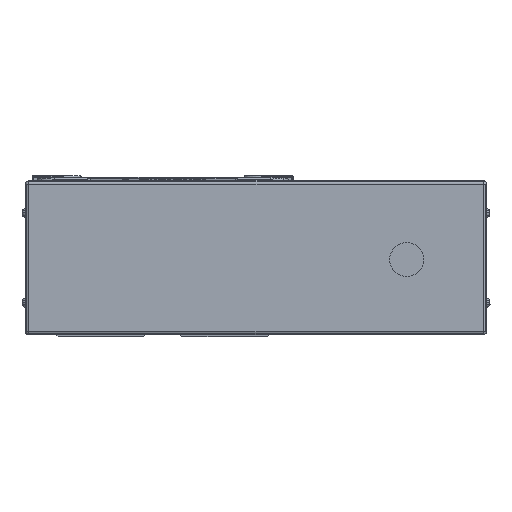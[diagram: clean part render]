
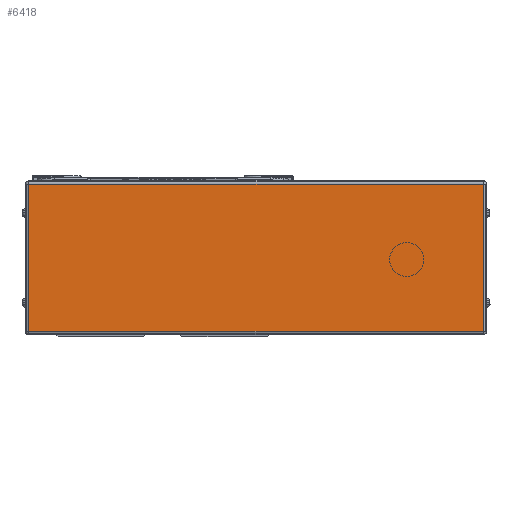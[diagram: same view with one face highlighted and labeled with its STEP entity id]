
A CAD part, left-side view. The second image highlights one B-rep face of the part: STEP entity #6418.
In plain terms, the highlighted planar face has unit normal (-1, 0, 0).
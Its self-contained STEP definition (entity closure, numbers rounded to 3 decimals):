
#6418=ADVANCED_FACE('',(#13460),#13461,.T.);
#13460=FACE_OUTER_BOUND('',#22399,.T.);
#13461=PLANE('',#22400);
#22399=EDGE_LOOP('',(#40735,#40736,#40737,#40738));
#22400=AXIS2_PLACEMENT_3D('',#40739,#40740,#40741);
#40735=ORIENTED_EDGE('',*,*,#51198,.F.);
#40736=ORIENTED_EDGE('',*,*,#53242,.F.);
#40737=ORIENTED_EDGE('',*,*,#53243,.F.);
#40738=ORIENTED_EDGE('',*,*,#53244,.F.);
#40739=CARTESIAN_POINT('',(-45.,-180.5,0.));
#40740=DIRECTION('',(-1.0,0.,0.));
#40741=DIRECTION('',(0.,0.,1.0));
#51198=EDGE_CURVE('',#62898,#62900,#62901,.T.);
#53242=EDGE_CURVE('',#64168,#62898,#65434,.T.);
#53243=EDGE_CURVE('',#65435,#64168,#65436,.T.);
#53244=EDGE_CURVE('',#62900,#65435,#65437,.T.);
#62898=VERTEX_POINT('',#78932);
#62900=VERTEX_POINT('',#78934);
#62901=LINE('',#78935,#78936);
#64168=VERTEX_POINT('',#81321);
#65434=LINE('',#83365,#83366);
#65435=VERTEX_POINT('',#83367);
#65436=LINE('',#83368,#83369);
#65437=LINE('',#83370,#83371);
#78932=CARTESIAN_POINT('',(-45.,-178.5,41.));
#78934=CARTESIAN_POINT('',(-45.,-178.5,-41.));
#78935=CARTESIAN_POINT('',(-45.,-178.5,0.));
#78936=VECTOR('',#92277,10.0);
#81321=CARTESIAN_POINT('',(-45.,74.5,41.));
#83365=CARTESIAN_POINT('',(-45.,-180.5,41.));
#83366=VECTOR('',#94532,10.0);
#83367=CARTESIAN_POINT('',(-45.,74.5,-41.));
#83368=CARTESIAN_POINT('',(-45.,74.5,0.));
#83369=VECTOR('',#94533,10.0);
#83370=CARTESIAN_POINT('',(-45.,-180.5,-41.));
#83371=VECTOR('',#94534,10.0);
#92277=DIRECTION('',(0.,0.,-1.0));
#94532=DIRECTION('',(0.,-1.0,0.));
#94533=DIRECTION('',(0.,0.,1.0));
#94534=DIRECTION('',(0.,1.0,0.));
